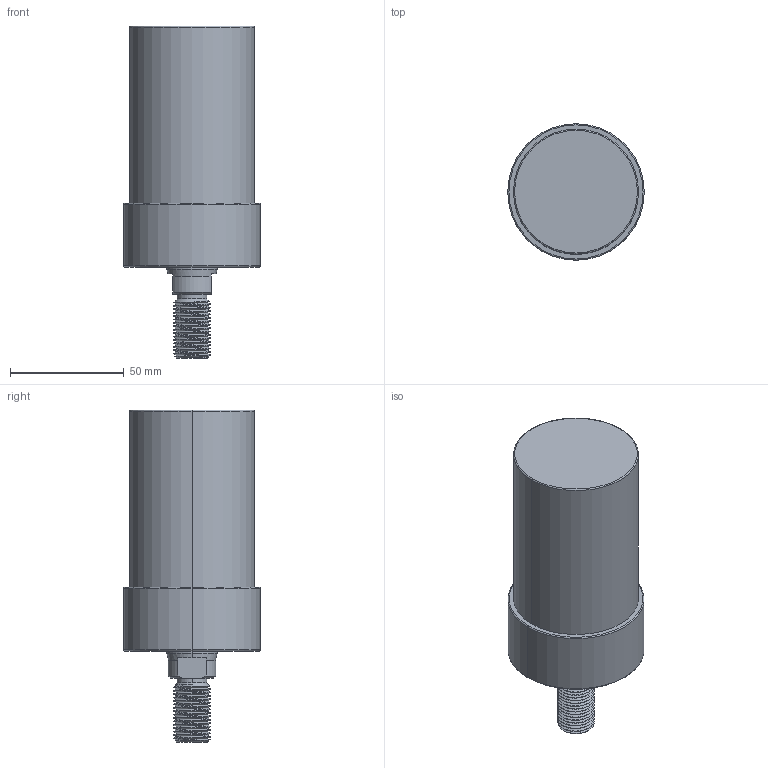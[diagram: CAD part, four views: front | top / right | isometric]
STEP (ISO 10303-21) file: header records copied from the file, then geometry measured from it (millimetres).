
FILE_DESCRIPTION (( 'STEP AP203' ), '1' );
FILE_NAME ('CLLU-055GT-065.STEP', '2020-01-16T00:53:34', ( '' ), ( '' ), 'SwSTEP 2.0', 'SolidWorks 2015', '' );
FILE_SCHEMA (( 'CONFIG_CONTROL_DESIGN' ));
Length unit declared in the file: millimetre
Products named in the file (1): CLLU-055GT-065
Bounding box: 60 x 60 x 146 mm (x, y, z)
Volume: 271736.2 mm3; surface area: 28477.5 mm2
Topology: 1 solids, 1 shells, 101 faces, 253 edges, 155 vertices
Faces by surface type: cylinder 55, cone 26, plane 12, torus 6, bspline 2
Entity records: 4860 total; most frequent: CARTESIAN_POINT 2590, ORIENTED_EDGE 490, DIRECTION 438, EDGE_CURVE 245, AXIS2_PLACEMENT_3D 176, VERTEX_POINT 155, EDGE_LOOP 110, ADVANCED_FACE 101
